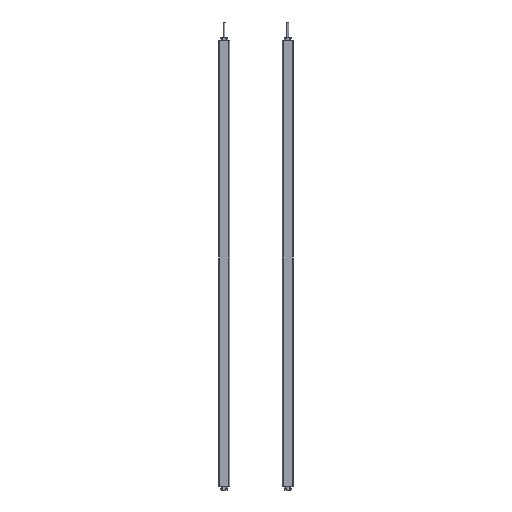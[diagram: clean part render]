
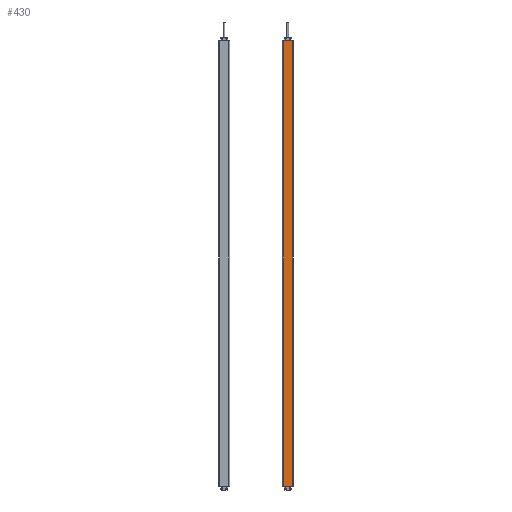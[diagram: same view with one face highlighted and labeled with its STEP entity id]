
A CAD part, front view. The second image highlights one B-rep face of the part: STEP entity #430.
In plain terms, the highlighted planar face has unit normal (0, -1, 0).
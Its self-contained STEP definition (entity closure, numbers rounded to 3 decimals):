
#187=PLANE('',#5933);
#430=ADVANCED_FACE('',(#861),#187,.T.);
#861=FACE_OUTER_BOUND('',#1137,.T.);
#1137=EDGE_LOOP('',(#1844,#1845,#1846,#1847));
#1844=ORIENTED_EDGE('',*,*,#4041,.T.);
#1845=ORIENTED_EDGE('',*,*,#4042,.F.);
#1846=ORIENTED_EDGE('',*,*,#4043,.F.);
#1847=ORIENTED_EDGE('',*,*,#3967,.T.);
#3415=VERTEX_POINT('',#8170);
#3416=VERTEX_POINT('',#8172);
#3485=VERTEX_POINT('',#8317);
#3486=VERTEX_POINT('',#8321);
#3967=EDGE_CURVE('',#3416,#3415,#4790,.T.);
#4041=EDGE_CURVE('',#3415,#3485,#4835,.T.);
#4042=EDGE_CURVE('',#3486,#3485,#4836,.T.);
#4043=EDGE_CURVE('',#3416,#3486,#4837,.T.);
#4790=LINE('',#8171,#5344);
#4835=LINE('',#8318,#5389);
#4836=LINE('',#8320,#5390);
#4837=LINE('',#8322,#5391);
#5344=VECTOR('',#6477,1.);
#5389=VECTOR('',#6586,1.);
#5390=VECTOR('',#6589,1.);
#5391=VECTOR('',#6590,1.);
#5933=AXIS2_PLACEMENT_3D('',#8323,#6591,#6592);
#6477=DIRECTION('',(1.,0.,0.));
#6586=DIRECTION('',(0.,0.,1.));
#6589=DIRECTION('',(1.,0.,0.));
#6590=DIRECTION('',(0.,0.,1.));
#6591=DIRECTION('',(0.,-1.,0.));
#6592=DIRECTION('',(1.,0.,0.));
#8170=CARTESIAN_POINT('',(3.35,-1.3,-500.));
#8171=CARTESIAN_POINT('',(-4122.897,-1.3,-500.));
#8172=CARTESIAN_POINT('',(-21.15,-1.3,-500.));
#8317=CARTESIAN_POINT('',(3.35,-1.3,702.));
#8318=CARTESIAN_POINT('',(3.35,-1.3,-100.));
#8320=CARTESIAN_POINT('',(-4122.897,-1.3,702.));
#8321=CARTESIAN_POINT('',(-21.15,-1.3,702.));
#8322=CARTESIAN_POINT('',(-21.15,-1.3,-100.));
#8323=CARTESIAN_POINT('',(-21.15,-1.3,-100.));
